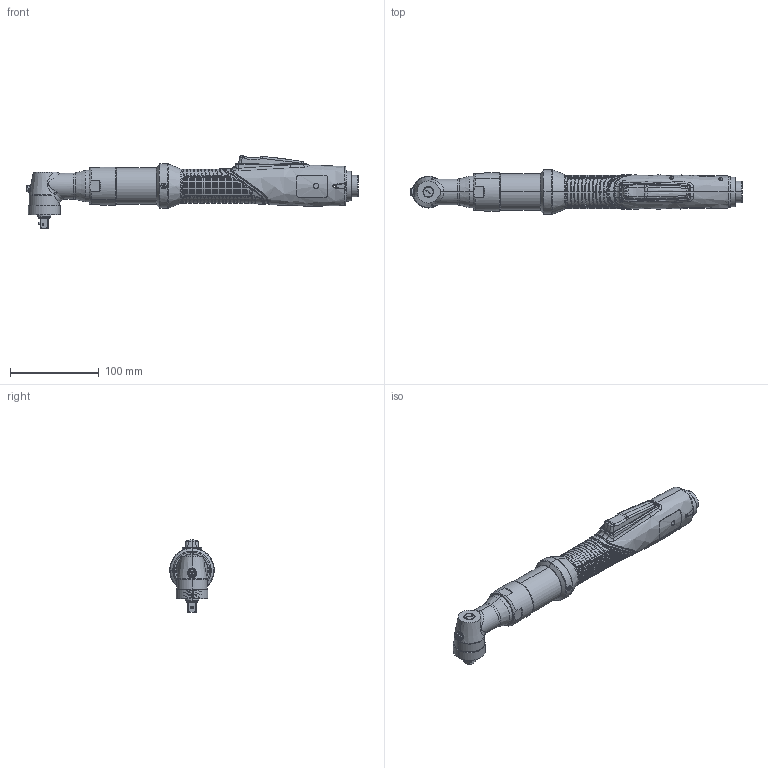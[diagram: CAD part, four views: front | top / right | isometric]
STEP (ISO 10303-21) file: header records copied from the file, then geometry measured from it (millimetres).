
FILE_DESCRIPTION (( 'STEP AP203' ), '1' );
FILE_NAME ('MDTL3220,3224,3236-Q.STEP', '2021-07-22T00:19:48', ( '' ), ( '' ), 'SwSTEP 2.0', 'SolidWorks 2020', '' );
FILE_SCHEMA (( 'CONFIG_CONTROL_DESIGN' ));
Length unit declared in the file: millimetre
Products named in the file (1): MDTL3220,3224,3236-Q
Bounding box: 373.68 x 49.99 x 81.42 mm (x, y, z)
Surface area: 65943.5 mm2 (no closed solid volume)
Topology: 0 solids, 35 shells, 2673 faces, 7593 edges, 5146 vertices
Faces by surface type: plane 1653, bspline 644, cylinder 282, cone 61, torus 33
Entity records: 150819 total; most frequent: CARTESIAN_POINT 94649, ORIENTED_EDGE 13542, EDGE_CURVE 7591, DIRECTION 6655, B_SPLINE_CURVE_WITH_KNOTS 5273, VERTEX_POINT 5146, EDGE_LOOP 3093, FACE_OUTER_BOUND 2673
